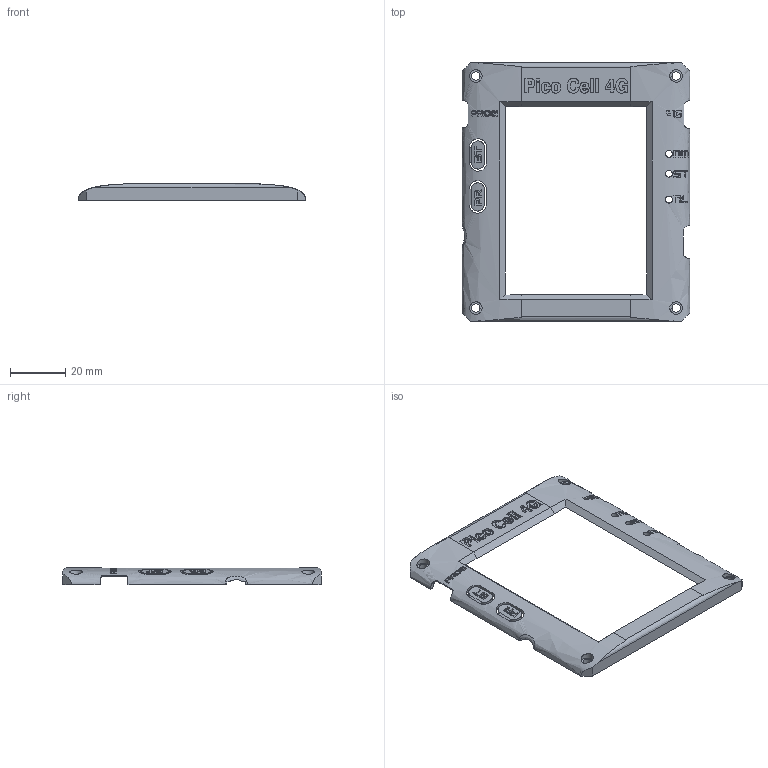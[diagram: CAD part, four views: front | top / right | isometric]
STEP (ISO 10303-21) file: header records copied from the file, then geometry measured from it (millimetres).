
FILE_DESCRIPTION (( 'STEP AP214' ), '1' );
FILE_NAME ('Pico _ Cell 4G top.STEP', '2024-04-16T05:29:20', ( '' ), ( '' ), 'SwSTEP 2.0', 'SolidWorks 2022', '' );
FILE_SCHEMA (( 'AUTOMOTIVE_DESIGN' ));
Length unit declared in the file: millimetre
Products named in the file (1): Pico _ Cell 4G top
Bounding box: 82.33 x 93.23 x 6.15 mm (x, y, z)
Volume: 6202.4 mm3; surface area: 11515.1 mm2
Topology: 1 solids, 1 shells, 475 faces, 1268 edges, 839 vertices
Faces by surface type: bspline 234, plane 200, cylinder 41
Full cylindrical faces by diameter (mm): 2.5 x3, 3 x4, 4.5 x4, 4.9 x3
Entity records: 27429 total; most frequent: CARTESIAN_POINT 17690, ORIENTED_EDGE 2494, EDGE_CURVE 1247, DIRECTION 1048, VERTEX_POINT 832, B_SPLINE_CURVE_WITH_KNOTS 711, EDGE_LOOP 553, VECTOR 508
